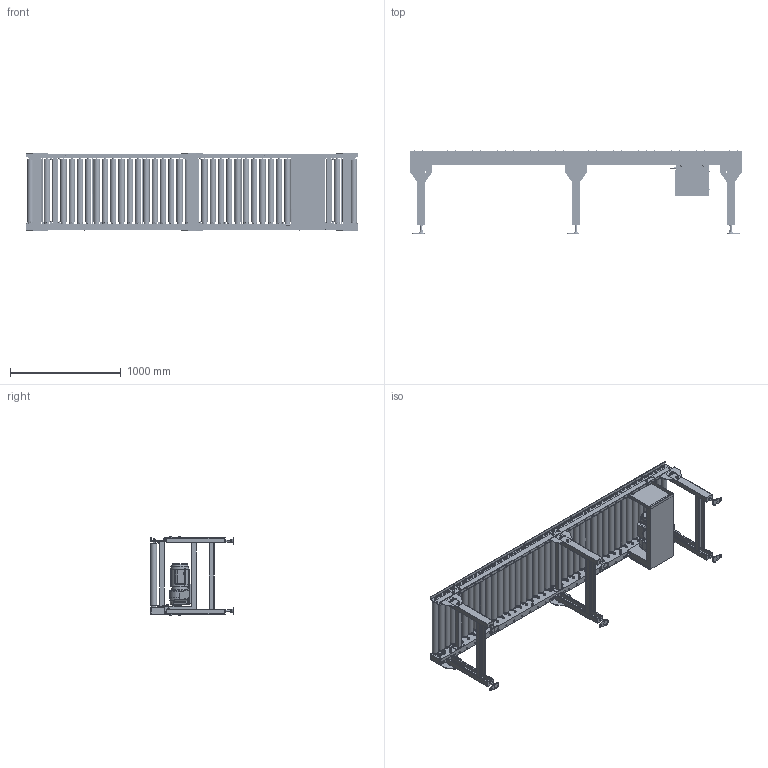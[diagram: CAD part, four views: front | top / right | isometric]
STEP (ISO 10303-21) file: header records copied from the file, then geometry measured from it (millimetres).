
FILE_DESCRIPTION( (''), '2;1');
FILE_NAME ('WEB-MCC4H-57-3-075-630-75-300-R-10S.stp','2025-06-18T08:55:56',(''),(''),'spGate 20.6.2 (****-****-****-****)','','');
FILE_SCHEMA (('AUTOMOTIVE_DESIGN'));
Length unit declared in the file: millimetre
Products named in the file (21): WEB-MCC4H-57-3-075-630-75-300-R-10S; TEMP_X_T-prt0; TEMP_X_T-prt1; TEMP_X_T-prt2; TEMP_X_T-prt3; TEMP_X_T-prt4; TEMP_X_T-prt5; TEMP_X_T-prt6; TEMP_X_T-prt7; TEMP_X_T-prt8; TEMP_X_T-prt9; TEMP_X_T-prt10; TEMP_X_T-prt11; TEMP_X_T-prt12; TEMP_X_T-prt13; TEMP_X_T-prt14; TEMP_X_T-prt15; TEMP_X_T-prt16; TEMP_X_T-prt17; TEMP_X_T-prt18; TEMP_X_T-prt19
Assembly tree (20 placements, depth 2):
  WEB-MCC4H-57-3-075-630-75-300-R-10S
    TEMP_X_T-prt0
    TEMP_X_T-prt1
    TEMP_X_T-prt2
    TEMP_X_T-prt3
    TEMP_X_T-prt4
    TEMP_X_T-prt5
    TEMP_X_T-prt6
    TEMP_X_T-prt7
    TEMP_X_T-prt8
    TEMP_X_T-prt9
    TEMP_X_T-prt10
    TEMP_X_T-prt11
    TEMP_X_T-prt12
    TEMP_X_T-prt13
    TEMP_X_T-prt14
    TEMP_X_T-prt15
    TEMP_X_T-prt16
    TEMP_X_T-prt17
    TEMP_X_T-prt18
    TEMP_X_T-prt19
Bounding box: 3002.4 x 750.3 x 714.4 mm (x, y, z)
Volume: 114902738.5 mm3; surface area: 10566629.8 mm2
Topology: 20 solids, 20 shells, 3788 faces, 9424 edges, 6355 vertices
Faces by surface type: plane 2836, cylinder 894, bspline 33, sphere 25
Full cylindrical faces by diameter (mm): 6 x64, 6.94 x3, 7 x1, 8 x43, 8.5 x5, 9.2 x4, 10 x93, 10.5 x2, 11 x30, 11.8 x24, 12 x8, 13 x44, 15 x4, 15.4 x44, 15.5 x40, 16 x24, 18 x35, 18.4 x22, 21 x4, 22 x7, 24 x52, 24.5 x4, 25 x4, 27 x1, 30 x1, 37 x40, 38 x1, 45 x1, 47 x40, 57 x40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
Entity records: 191811 total; most frequent: CARTESIAN_POINT 22018, DIRECTION 19360, ORIENTED_EDGE 18800, COLOUR_RGB 13208, PRESENTATION_STYLE_ASSIGNMENT 13208, STYLED_ITEM 13208, EDGE_CURVE 9400, DRAUGHTING_PRE_DEFINED_CURVE_FONT 9400
